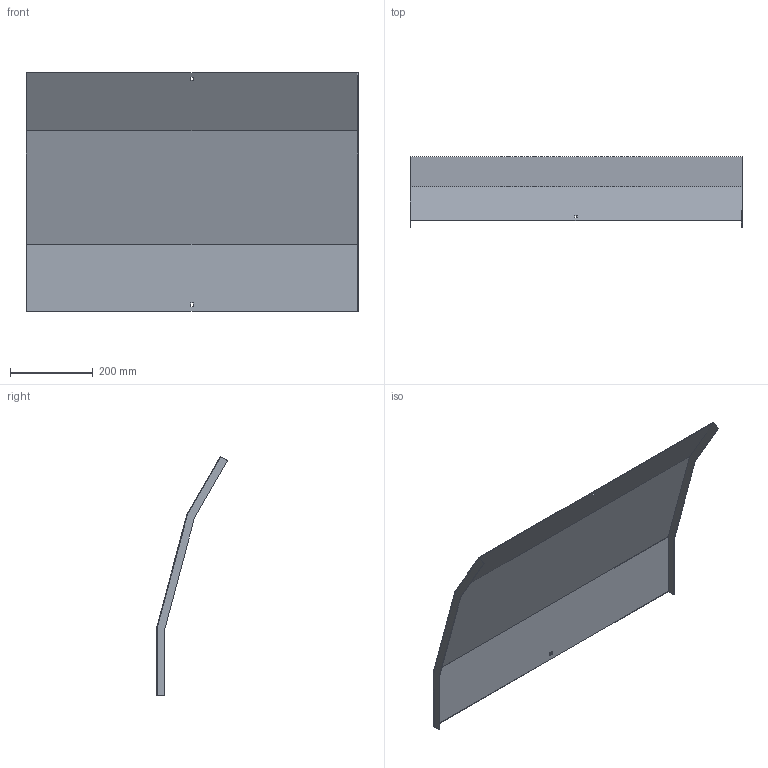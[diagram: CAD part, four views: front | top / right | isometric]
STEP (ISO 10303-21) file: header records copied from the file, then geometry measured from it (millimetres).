
FILE_DESCRIPTION (( 'STEP AP214' ), '1' );
FILE_NAME ('35N5C800.step', '2025-02-21T10:28:49', ( '' ), ( '' ), 'SwSTEP 2.0', 'SolidWorks 2023', '' );
FILE_SCHEMA (( 'AUTOMOTIVE_DESIGN' ));
Length unit declared in the file: millimetre
Products named in the file (1): 35N5C800
Bounding box: 803 x 172.21 x 578.06 mm (x, y, z)
Volume: 767045.2 mm3; surface area: 1027138.1 mm2
Topology: 1 solids, 1 shells, 26 faces, 72 edges, 48 vertices
Faces by surface type: plane 26
Entity records: 847 total; most frequent: CARTESIAN_POINT 147, ORIENTED_EDGE 144, DIRECTION 126, VECTOR 72, LINE 72, EDGE_CURVE 72, VERTEX_POINT 48, EDGE_LOOP 30
